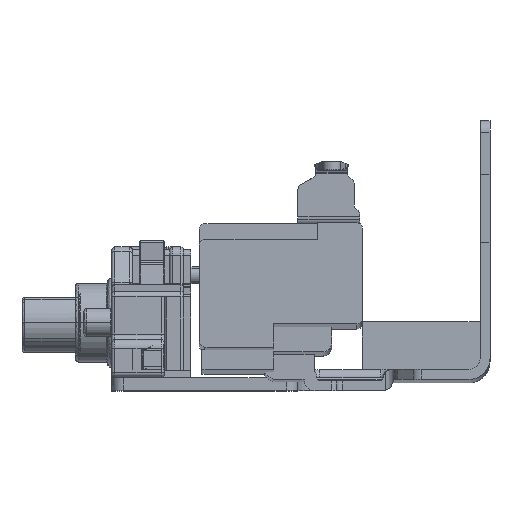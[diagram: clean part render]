
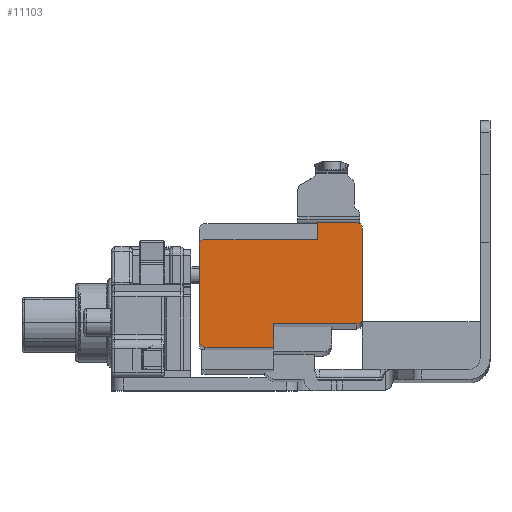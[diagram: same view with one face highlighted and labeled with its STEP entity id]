
A CAD part, top view. The second image highlights one B-rep face of the part: STEP entity #11103.
In plain terms, the highlighted planar face has unit normal (0, 0, 1).
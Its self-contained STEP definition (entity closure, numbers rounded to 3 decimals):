
#8 = VERTEX_POINT ( 'NONE', #15846 ) ;
#51 = LINE ( 'NONE', #12037, #6742 ) ;
#477 = CARTESIAN_POINT ( 'NONE',  ( -50.85, 0., 494.3 ) ) ;
#708 = CIRCLE ( 'NONE', #5648, 1. ) ;
#939 = VERTEX_POINT ( 'NONE', #4550 ) ;
#1171 = LINE ( 'NONE', #1698, #11593 ) ;
#1274 = DIRECTION ( 'NONE',  ( 0., -1., 0. ) ) ;
#1534 = LINE ( 'NONE', #2920, #8682 ) ;
#1555 = CARTESIAN_POINT ( 'NONE',  ( -43.85, 4., 494.3 ) ) ;
#1662 = ORIENTED_EDGE ( 'NONE', *, *, #4251, .F. ) ;
#1677 = CARTESIAN_POINT ( 'NONE',  ( -42.85, 0., 494.3 ) ) ;
#1698 = CARTESIAN_POINT ( 'NONE',  ( -40.3, 1., 494.3 ) ) ;
#1700 = ORIENTED_EDGE ( 'NONE', *, *, #4977, .T. ) ;
#1757 = DIRECTION ( 'NONE',  ( 0., -1., 0. ) ) ;
#1802 = VERTEX_POINT ( 'NONE', #7828 ) ;
#2273 = EDGE_CURVE ( 'NONE', #4846, #9554, #15269, .T. ) ;
#2584 = CARTESIAN_POINT ( 'NONE',  ( -71.88, -17.1, 494.3 ) ) ;
#2591 = DIRECTION ( 'NONE',  ( 0., -1., 0. ) ) ;
#2607 = CARTESIAN_POINT ( 'NONE',  ( -70.91, 0.03, 494.3 ) ) ;
#2640 = EDGE_CURVE ( 'NONE', #17699, #6958, #7183, .T. ) ;
#2666 = EDGE_CURVE ( 'NONE', #17099, #1802, #51, .T. ) ;
#2920 = CARTESIAN_POINT ( 'NONE',  ( -71.88, 0., 494.3 ) ) ;
#2955 = EDGE_CURVE ( 'NONE', #6002, #4846, #708, .T. ) ;
#2975 = CARTESIAN_POINT ( 'NONE',  ( -50.85, 4., 494.3 ) ) ;
#3003 = EDGE_CURVE ( 'NONE', #939, #1802, #9829, .T. ) ;
#3021 = ORIENTED_EDGE ( 'NONE', *, *, #3003, .F. ) ;
#3312 = VERTEX_POINT ( 'NONE', #12059 ) ;
#3444 = ORIENTED_EDGE ( 'NONE', *, *, #14382, .F. ) ;
#3604 = DIRECTION ( 'NONE',  ( -1., 0., 0. ) ) ;
#3994 = CARTESIAN_POINT ( 'NONE',  ( -70.88, -18.1, 494.3 ) ) ;
#4023 = DIRECTION ( 'NONE',  ( -1., 0., 0. ) ) ;
#4083 = VECTOR ( 'NONE', #1757, 1000. ) ;
#4118 = CARTESIAN_POINT ( 'NONE',  ( -42.85, 3., 494.3 ) ) ;
#4251 = EDGE_CURVE ( 'NONE', #17699, #6002, #4685, .T. ) ;
#4281 = CIRCLE ( 'NONE', #15771, 0.97 ) ;
#4550 = CARTESIAN_POINT ( 'NONE',  ( -58.68, -14., 494.3 ) ) ;
#4685 = LINE ( 'NONE', #11568, #15858 ) ;
#4800 = ORIENTED_EDGE ( 'NONE', *, *, #2666, .T. ) ;
#4846 = VERTEX_POINT ( 'NONE', #4118 ) ;
#4977 = EDGE_CURVE ( 'NONE', #6195, #9979, #1534, .T. ) ;
#4990 = VECTOR ( 'NONE', #10012, 1000. ) ;
#5443 = DIRECTION ( 'NONE',  ( 0., 0., 1. ) ) ;
#5648 = AXIS2_PLACEMENT_3D ( 'NONE', #9374, #9265, #9210 ) ;
#5685 = ORIENTED_EDGE ( 'NONE', *, *, #2273, .F. ) ;
#5812 = DIRECTION ( 'NONE',  ( -1., 0., 0. ) ) ;
#6002 = VERTEX_POINT ( 'NONE', #1555 ) ;
#6060 = VECTOR ( 'NONE', #8797, 1000. ) ;
#6195 = VERTEX_POINT ( 'NONE', #17421 ) ;
#6742 = VECTOR ( 'NONE', #18171, 1000. ) ;
#6958 = VERTEX_POINT ( 'NONE', #14139 ) ;
#7183 = LINE ( 'NONE', #477, #10499 ) ;
#7672 = ORIENTED_EDGE ( 'NONE', *, *, #2955, .F. ) ;
#7757 = DIRECTION ( 'NONE',  ( 0., 0., -1. ) ) ;
#7828 = CARTESIAN_POINT ( 'NONE',  ( -58.68, -18.1, 494.3 ) ) ;
#8339 = CARTESIAN_POINT ( 'NONE',  ( -58.68, 0., 494.3 ) ) ;
#8369 = FACE_OUTER_BOUND ( 'NONE', #8533, .T. ) ;
#8533 = EDGE_LOOP ( 'NONE', ( #1700, #11209, #4800, #3021, #16184, #18169, #5685, #7672, #1662, #17711, #9006, #3444 ) ) ;
#8616 = CARTESIAN_POINT ( 'NONE',  ( -40.3, -14., 494.3 ) ) ;
#8682 = VECTOR ( 'NONE', #2591, 1000. ) ;
#8797 = DIRECTION ( 'NONE',  ( 0., -1., 0. ) ) ;
#9006 = ORIENTED_EDGE ( 'NONE', *, *, #12186, .T. ) ;
#9210 = DIRECTION ( 'NONE',  ( -1., 0., 0. ) ) ;
#9265 = DIRECTION ( 'NONE',  ( 0., 0., -1. ) ) ;
#9374 = CARTESIAN_POINT ( 'NONE',  ( -43.85, 3., 494.3 ) ) ;
#9554 = VERTEX_POINT ( 'NONE', #16498 ) ;
#9829 = LINE ( 'NONE', #8339, #6060 ) ;
#9979 = VERTEX_POINT ( 'NONE', #2584 ) ;
#10012 = DIRECTION ( 'NONE',  ( -1., 0., 0. ) ) ;
#10136 = CIRCLE ( 'NONE', #15711, 1. ) ;
#10493 = EDGE_CURVE ( 'NONE', #17099, #9979, #10136, .T. ) ;
#10499 = VECTOR ( 'NONE', #1274, 1000. ) ;
#11103 = ADVANCED_FACE ( 'NONE', ( #8369 ), #16635, .T. ) ;
#11209 = ORIENTED_EDGE ( 'NONE', *, *, #10493, .F. ) ;
#11486 = DIRECTION ( 'NONE',  ( 1., 0., 0. ) ) ;
#11568 = CARTESIAN_POINT ( 'NONE',  ( -50.85, 4., 494.3 ) ) ;
#11593 = VECTOR ( 'NONE', #5812, 1000. ) ;
#11630 = EDGE_CURVE ( 'NONE', #3312, #939, #12907, .T. ) ;
#12037 = CARTESIAN_POINT ( 'NONE',  ( -40.3, -18.1, 494.3 ) ) ;
#12052 = DIRECTION ( 'NONE',  ( 0., 0., -1. ) ) ;
#12059 = CARTESIAN_POINT ( 'NONE',  ( -43.85, -14., 494.3 ) ) ;
#12186 = EDGE_CURVE ( 'NONE', #6958, #8, #1171, .T. ) ;
#12462 = DIRECTION ( 'NONE',  ( 0., 0., -1. ) ) ;
#12818 = AXIS2_PLACEMENT_3D ( 'NONE', #15234, #5443, #13835 ) ;
#12895 = EDGE_CURVE ( 'NONE', #9554, #3312, #17488, .T. ) ;
#12907 = LINE ( 'NONE', #8616, #4990 ) ;
#12934 = CARTESIAN_POINT ( 'NONE',  ( -70.88, -17.1, 494.3 ) ) ;
#13176 = AXIS2_PLACEMENT_3D ( 'NONE', #16089, #7757, #17517 ) ;
#13835 = DIRECTION ( 'NONE',  ( -1., 0., 0. ) ) ;
#14139 = CARTESIAN_POINT ( 'NONE',  ( -50.85, 1., 494.3 ) ) ;
#14382 = EDGE_CURVE ( 'NONE', #6195, #8, #4281, .T. ) ;
#15234 = CARTESIAN_POINT ( 'NONE',  ( -40.3, 0., 494.3 ) ) ;
#15269 = LINE ( 'NONE', #1677, #4083 ) ;
#15711 = AXIS2_PLACEMENT_3D ( 'NONE', #12934, #12052, #3604 ) ;
#15771 = AXIS2_PLACEMENT_3D ( 'NONE', #2607, #12462, #4023 ) ;
#15846 = CARTESIAN_POINT ( 'NONE',  ( -70.91, 1., 494.3 ) ) ;
#15858 = VECTOR ( 'NONE', #11486, 1000. ) ;
#16089 = CARTESIAN_POINT ( 'NONE',  ( -43.85, -13., 494.3 ) ) ;
#16184 = ORIENTED_EDGE ( 'NONE', *, *, #11630, .F. ) ;
#16498 = CARTESIAN_POINT ( 'NONE',  ( -42.85, -13., 494.3 ) ) ;
#16635 = PLANE ( 'NONE',  #12818 ) ;
#17099 = VERTEX_POINT ( 'NONE', #3994 ) ;
#17421 = CARTESIAN_POINT ( 'NONE',  ( -71.88, 0.03, 494.3 ) ) ;
#17488 = CIRCLE ( 'NONE', #13176, 1. ) ;
#17517 = DIRECTION ( 'NONE',  ( -1., 0., 0. ) ) ;
#17699 = VERTEX_POINT ( 'NONE', #2975 ) ;
#17711 = ORIENTED_EDGE ( 'NONE', *, *, #2640, .T. ) ;
#18169 = ORIENTED_EDGE ( 'NONE', *, *, #12895, .F. ) ;
#18171 = DIRECTION ( 'NONE',  ( 1., 0., 0. ) ) ;
